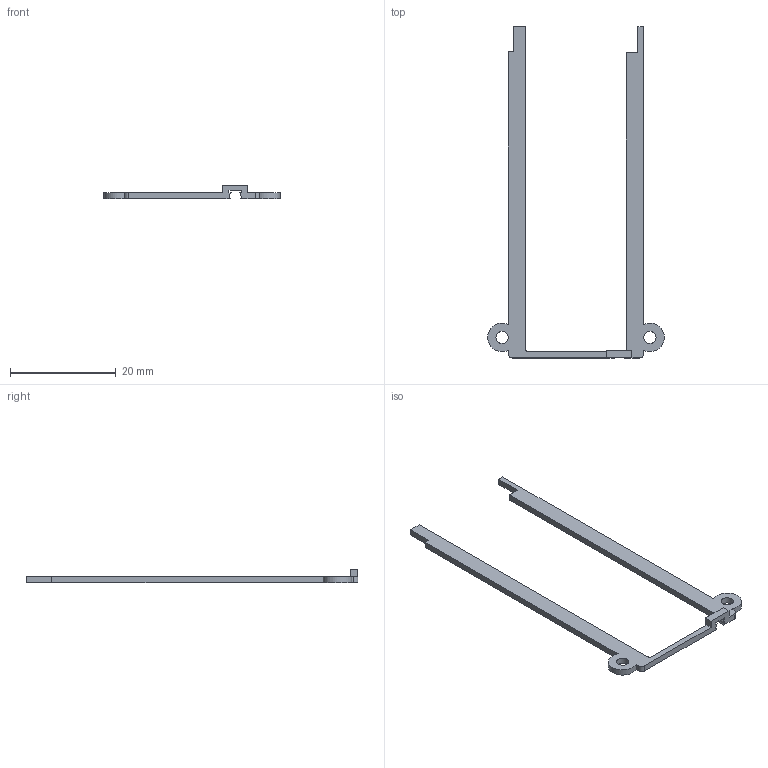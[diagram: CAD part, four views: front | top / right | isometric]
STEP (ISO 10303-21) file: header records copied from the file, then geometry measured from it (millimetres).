
FILE_DESCRIPTION(/* description */ (''),/* implementation_level */ '2;1');
FILE_NAME(/* name */ 'P15.step',/* time_stamp */ '2026-09-14T14:45:13-07:00',/* author */ (''),/* organization */ (''),/* preprocessor_version */ 'ST-DEVELOPER v20.1',/* originating_system */ 'Autodesk Translation Framework v15.8.0.0',/* authorisation */ '');
FILE_SCHEMA (('AUTOMOTIVE_DESIGN { 1 0 10303 214 3 1 1 }'));
Length unit declared in the file: millimetre
Products named in the file (1): 2026-09-14-14-45-13-573
Bounding box: 33.4 x 62.85 x 2.63 mm (x, y, z)
Volume: 543.3 mm3; surface area: 1305.8 mm2
Topology: 1 solids, 1 shells, 39 faces, 111 edges, 74 vertices
Faces by surface type: plane 28, cylinder 11
Full cylindrical faces by diameter (mm): 2.3 x2
Entity records: 1314 total; most frequent: CARTESIAN_POINT 234, ORIENTED_EDGE 222, DIRECTION 211, EDGE_CURVE 111, LINE 89, VECTOR 89, VERTEX_POINT 74, AXIS2_PLACEMENT_3D 61
